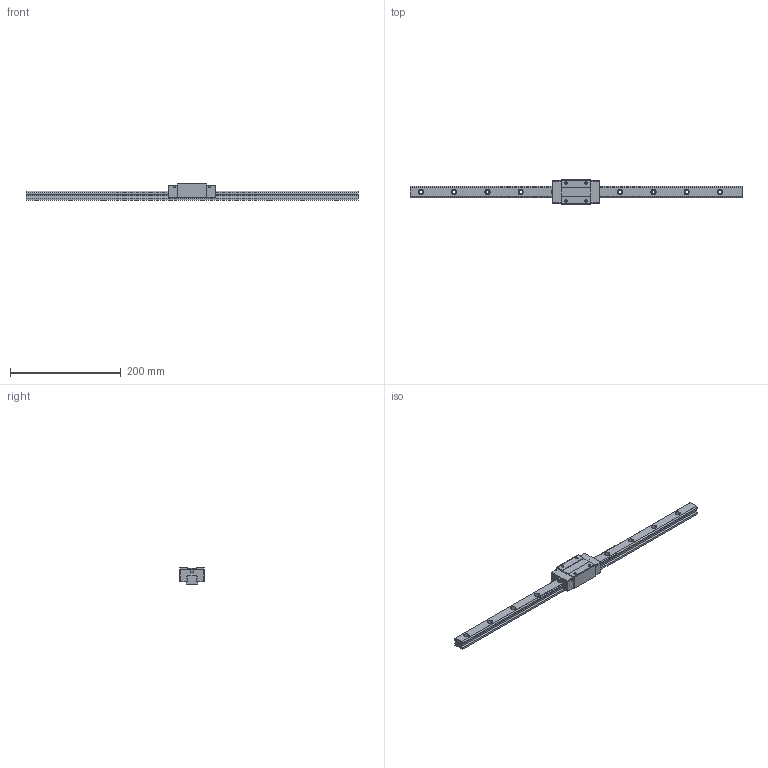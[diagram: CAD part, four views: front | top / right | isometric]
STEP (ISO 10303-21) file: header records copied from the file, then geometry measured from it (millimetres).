
FILE_DESCRIPTION (( 'STEP AP203' ), '1' );
FILE_NAME ('TRH20VN-ZN.STEP', '2024-05-23T03:18:13', ( '' ), ( '' ), 'SwSTEP 2.0', 'SolidWorks 2022', '' );
FILE_SCHEMA (( 'CONFIG_CONTROL_DESIGN' ));
Length unit declared in the file: millimetre
Products named in the file (1): TRH20VN-ZN
Bounding box: 600 x 44 x 30 mm (x, y, z)
Volume: 238595.5 mm3; surface area: 65510.2 mm2
Topology: 2 solids, 2 shells, 196 faces, 512 edges, 332 vertices
Faces by surface type: cylinder 96, plane 84, cone 16
Entity records: 6127 total; most frequent: DIRECTION 1098, CARTESIAN_POINT 1033, ORIENTED_EDGE 1008, EDGE_CURVE 504, AXIS2_PLACEMENT_3D 397, VERTEX_POINT 332, LINE 304, VECTOR 304
